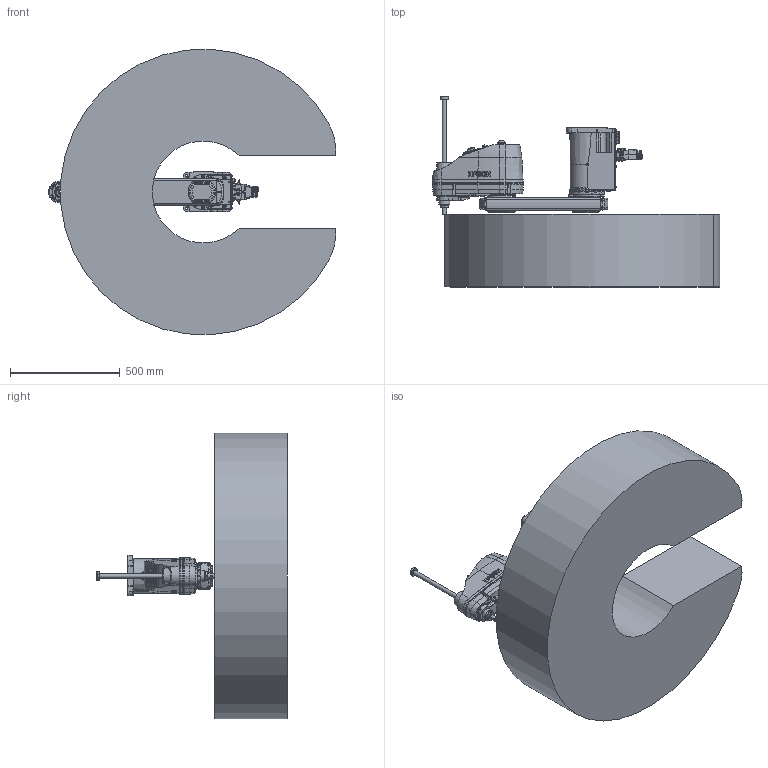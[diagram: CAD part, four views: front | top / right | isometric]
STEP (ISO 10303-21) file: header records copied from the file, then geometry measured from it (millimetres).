
FILE_DESCRIPTION( ( 'STEP AP214' ), '1' );
FILE_NAME( 'C:/Users/9607552/Desktop/GX8-B653SR_straight.stp', '2023-07-07T02:44:49', ( '' ), ( '' ), ' ', 'PARTsolutions', ' ' );
FILE_SCHEMA( ( 'AUTOMOTIVE_DESIGN { 1 0 10303 214 1 1 1 1 }' ) );
Length unit declared in the file: millimetre
Products named in the file (9): GX8-B653SRS-W; _B452S_BASE; _B652SR; _B652SR_1; _B652SR_2; _B452S_J2; _B453SZA; _Straight-B; _GX8-26-1-B_WS
Assembly tree (10 placements, depth 2):
  GX8-B653SRS-W
    _B452S_BASE
    _B652SR
    _B652SR_1  x2
    _B652SR_2  x2
    _B452S_J2
    _B453SZA
    _Straight-B
    _GX8-26-1-B_WS
Bounding box: 1307.76 x 865 x 1298.02 mm (x, y, z)
Volume: 357544949.7 mm3; surface area: 5046696.9 mm2
Topology: 10 solids, 10 shells, 2886 faces, 7037 edges, 4582 vertices
Faces by surface type: plane 1436, cylinder 920, cone 365, torus 122, bspline 37, sphere 6
Full cylindrical faces by diameter (mm): 1 x48, 1.18 x55, 2.261 x4, 2.459 x12, 3 x32, 3.242 x18, 3.3 x5, 3.9 x4, 4 x4, 4.2 x8, 4.5 x4, 4.8 x4, 5.34 x4, 5.5 x17, 6 x1, 6.2 x4, 6.647 x4, 6.8 x2, 7 x48, 8 x5, 8.5 x4, 9 x24, 10 x18, 11 x4, 11.2 x5, 11.5 x1, 12 x5, 12.25 x1, 13 x3, 13.2 x12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
Entity records: 103016 total; most frequent: CARTESIAN_POINT 19668, DIRECTION 12677, ORIENTED_EDGE 11728, EDGE_CURVE 5864, AXIS2_PLACEMENT_3D 4902, VERTEX_POINT 4214, EDGE_LOOP 3811, FACE_OUTER_BOUND 3175
